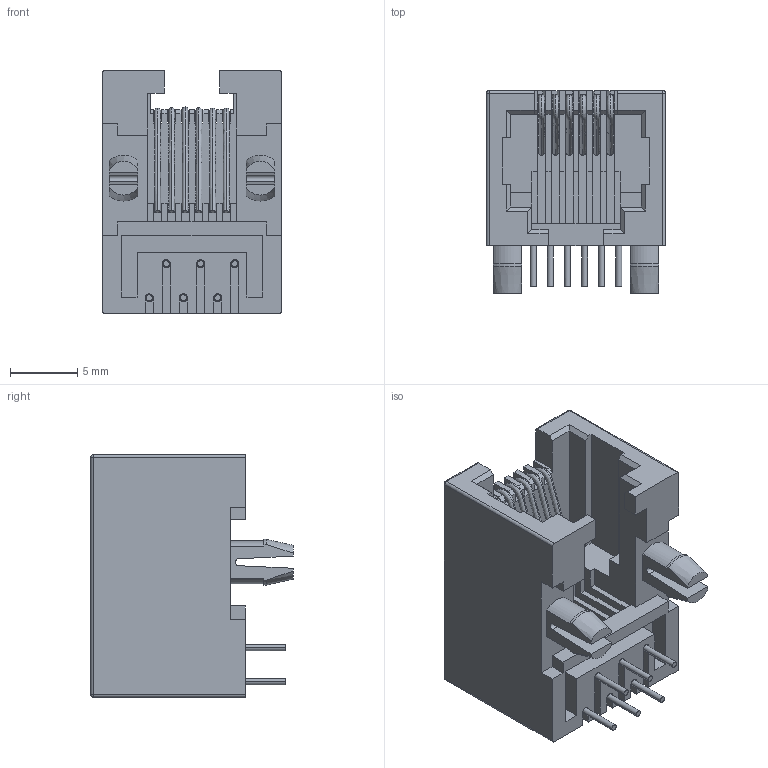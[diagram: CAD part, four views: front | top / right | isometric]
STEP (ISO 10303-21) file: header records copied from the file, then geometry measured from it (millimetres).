
FILE_DESCRIPTION((''),'2;1');
FILE_NAME('DGKYD53211166IWA1DY1017_A-10201_ASM','2024-05-10T13:43:21',('Administrator'),(''),'CREO PARAMETRIC BY PTC INC, 2019010','CREO PARAMETRIC BY PTC INC, 2019010','');
FILE_SCHEMA(('CONFIG_CONTROL_DESIGN'));
Length unit declared in the file: millimetre
Products named in the file (8): MSBR-7_1_1_1; MSBR-6_1_1_1; MSBR-5_1_1_1; MSBR-4_1_1_1; MSBR-3_1_1_1; MSBR-2_1_1_1; MSBR-1_1_1_1; DGKYD53211166IWA1DY1017_A-10201_ASM
Assembly tree (7 placements, depth 2):
  DGKYD53211166IWA1DY1017_A-10201_ASM
    MSBR-7_1_1_1
    MSBR-6_1_1_1
    MSBR-5_1_1_1
    MSBR-4_1_1_1
    MSBR-3_1_1_1
    MSBR-2_1_1_1
    MSBR-1_1_1_1
Bounding box: 13.3 x 15.05 x 18.05 mm (x, y, z)
Volume: 1612.6 mm3; surface area: 2535.2 mm2
Topology: 7 solids, 7 shells, 337 faces, 1014 edges, 670 vertices
Faces by surface type: plane 268, cylinder 49, bspline 12, sphere 4, cone 4
Entity records: 26757 total; most frequent: CARTESIAN_POINT 17366, ORIENTED_EDGE 2028, DIRECTION 1831, EDGE_CURVE 1014, VECTOR 805, LINE 805, VERTEX_POINT 670, AXIS2_PLACEMENT_3D 513
